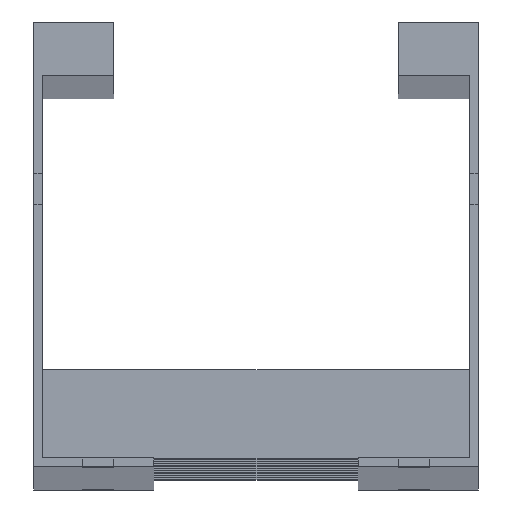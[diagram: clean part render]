
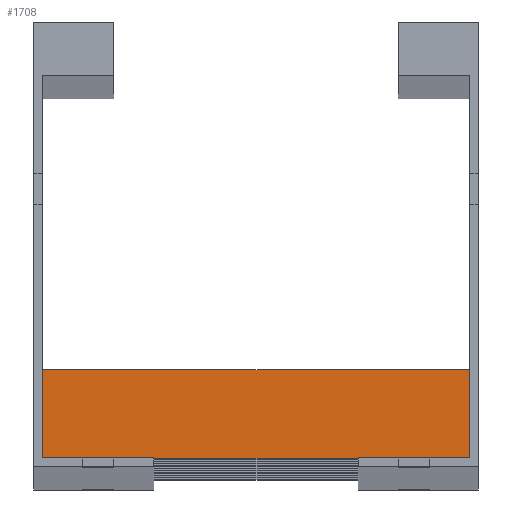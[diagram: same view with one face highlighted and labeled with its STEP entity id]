
A CAD part, top view. The second image highlights one B-rep face of the part: STEP entity #1708.
In plain terms, the highlighted planar face has unit normal (0, 0, 1).
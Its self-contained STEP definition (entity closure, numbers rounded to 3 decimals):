
#65 = VERTEX_POINT ( 'NONE', #231 ) ;
#86 = EDGE_LOOP ( 'NONE', ( #1716, #213, #543, #572 ) ) ;
#96 = DIRECTION ( 'NONE',  ( 0., 1., 0. ) ) ;
#186 = DIRECTION ( 'NONE',  ( -1., 0., 0. ) ) ;
#195 = EDGE_CURVE ( 'NONE', #1459, #1002, #1595, .T. ) ;
#197 = VECTOR ( 'NONE', #1556, 1000. ) ;
#199 = VECTOR ( 'NONE', #186, 1000. ) ;
#213 = ORIENTED_EDGE ( 'NONE', *, *, #624, .F. ) ;
#231 = CARTESIAN_POINT ( 'NONE',  ( -48., 20., 20.25 ) ) ;
#254 = PLANE ( 'NONE',  #892 ) ;
#326 = DIRECTION ( 'NONE',  ( 0., -1., 0. ) ) ;
#397 = CARTESIAN_POINT ( 'NONE',  ( 48., 20., 20.25 ) ) ;
#398 = EDGE_CURVE ( 'NONE', #1459, #65, #1443, .T. ) ;
#448 = CARTESIAN_POINT ( 'NONE',  ( 48., 0., 20.25 ) ) ;
#543 = ORIENTED_EDGE ( 'NONE', *, *, #195, .F. ) ;
#572 = ORIENTED_EDGE ( 'NONE', *, *, #398, .T. ) ;
#624 = EDGE_CURVE ( 'NONE', #1002, #1087, #694, .T. ) ;
#678 = VECTOR ( 'NONE', #326, 1000. ) ;
#683 = CARTESIAN_POINT ( 'NONE',  ( 48., 20., 20.25 ) ) ;
#694 = LINE ( 'NONE', #448, #199 ) ;
#892 = AXIS2_PLACEMENT_3D ( 'NONE', #1190, #923, #96 ) ;
#923 = DIRECTION ( 'NONE',  ( 0., 0., -1. ) ) ;
#1002 = VERTEX_POINT ( 'NONE', #1381 ) ;
#1028 = CARTESIAN_POINT ( 'NONE',  ( 48., 20., 20.25 ) ) ;
#1049 = FACE_OUTER_BOUND ( 'NONE', #86, .T. ) ;
#1087 = VERTEX_POINT ( 'NONE', #1286 ) ;
#1190 = CARTESIAN_POINT ( 'NONE',  ( 48., 20., 20.25 ) ) ;
#1258 = VECTOR ( 'NONE', #1456, 1000. ) ;
#1286 = CARTESIAN_POINT ( 'NONE',  ( -48., 0., 20.25 ) ) ;
#1381 = CARTESIAN_POINT ( 'NONE',  ( 48., 0., 20.25 ) ) ;
#1400 = LINE ( 'NONE', #1675, #678 ) ;
#1443 = LINE ( 'NONE', #1028, #1258 ) ;
#1456 = DIRECTION ( 'NONE',  ( -1., 0., 0. ) ) ;
#1459 = VERTEX_POINT ( 'NONE', #683 ) ;
#1556 = DIRECTION ( 'NONE',  ( 0., -1., 0. ) ) ;
#1595 = LINE ( 'NONE', #397, #197 ) ;
#1638 = EDGE_CURVE ( 'NONE', #65, #1087, #1400, .T. ) ;
#1675 = CARTESIAN_POINT ( 'NONE',  ( -48., 20., 20.25 ) ) ;
#1708 = ADVANCED_FACE ( 'NONE', ( #1049 ), #254, .F. ) ;
#1716 = ORIENTED_EDGE ( 'NONE', *, *, #1638, .T. ) ;
